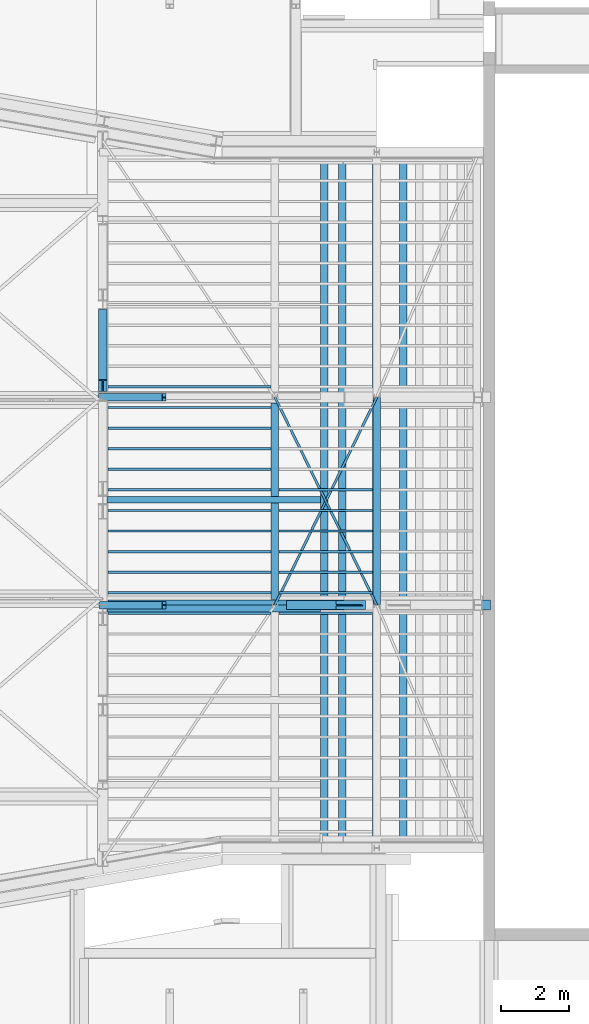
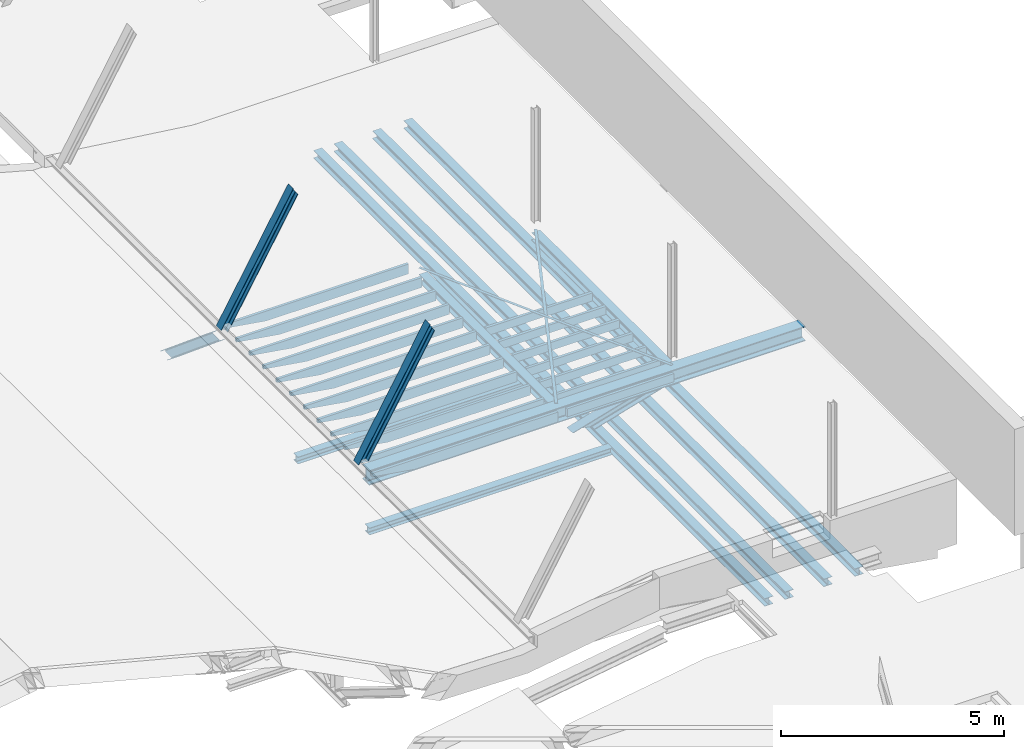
# One storey, part 29 of 50: 34 beams.
"""IFC2X3 building model written with IfcOpenShell, lengths in millimetres."""

from ifc_helpers import new_model, entity, si_unit, converted_unit, derived_unit, direction, frame, frame_2d, origin, place, context, subcontext, project, spatial, polyline, circle_curve, parameter, trimmed, segment, composite_curve, rectangle, i_section, outline, extrude, clip, halfspace, material, type_object, element, save


model = new_model("IFC2X3")

# Units and contexts
model_context = context("Model", 3, precision=0.01, world=origin(), true_north=direction((6.12303176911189e-17, 1.0)))
body_context = subcontext(model_context, "Body", "Model", "MODEL_VIEW")
ifc_project = project(units=[si_unit("LENGTHUNIT", "METRE", prefix="MILLI"), si_unit("AREAUNIT", "SQUARE_METRE", prefix="MILLI"), si_unit("VOLUMEUNIT", "CUBIC_METRE"), converted_unit("PLANEANGLEUNIT", "DEGREE", entity("IfcRatioMeasure", 0.0174532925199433), si_unit("PLANEANGLEUNIT", "RADIAN"), dimensions=[0, 0, 0, 0, 0, 0, 0]), si_unit("MASSUNIT", "GRAM", prefix="KILO"), derived_unit("MASSDENSITYUNIT", [(si_unit("MASSUNIT", "GRAM", prefix="KILO"), 1), (si_unit("LENGTHUNIT", "METRE"), -3)]), derived_unit("MOMENTOFINERTIAUNIT", [(si_unit("LENGTHUNIT", "METRE"), 4)]), si_unit("TIMEUNIT", "SECOND"), si_unit("FREQUENCYUNIT", "HERTZ"), si_unit("THERMODYNAMICTEMPERATUREUNIT", "DEGREE_CELSIUS"), derived_unit("THERMALTRANSMITTANCEUNIT", [(si_unit("MASSUNIT", "GRAM", prefix="KILO"), 1), (si_unit("THERMODYNAMICTEMPERATUREUNIT", "KELVIN"), -1), (si_unit("TIMEUNIT", "SECOND"), -3)]), derived_unit("VOLUMETRICFLOWRATEUNIT", [(si_unit("LENGTHUNIT", "METRE"), 3), (si_unit("TIMEUNIT", "SECOND"), -1)]), si_unit("ELECTRICCURRENTUNIT", "AMPERE"), si_unit("ELECTRICVOLTAGEUNIT", "VOLT"), si_unit("POWERUNIT", "WATT"), si_unit("FORCEUNIT", "NEWTON", prefix="KILO"), si_unit("ILLUMINANCEUNIT", "LUX"), si_unit("LUMINOUSFLUXUNIT", "LUMEN"), si_unit("LUMINOUSINTENSITYUNIT", "CANDELA"), derived_unit("USERDEFINED", [(si_unit("MASSUNIT", "GRAM", prefix="KILO"), -1), (si_unit("LENGTHUNIT", "METRE"), -2), (si_unit("TIMEUNIT", "SECOND"), 3), (si_unit("LUMINOUSFLUXUNIT", "LUMEN"), 1)]), derived_unit("LINEARVELOCITYUNIT", [(si_unit("LENGTHUNIT", "METRE"), 1), (si_unit("TIMEUNIT", "SECOND"), -1)]), si_unit("PRESSUREUNIT", "PASCAL"), derived_unit("USERDEFINED", [(si_unit("LENGTHUNIT", "METRE"), -2), (si_unit("MASSUNIT", "GRAM", prefix="KILO"), 1), (si_unit("TIMEUNIT", "SECOND"), -2)]), derived_unit("LINEARFORCEUNIT", [(si_unit("MASSUNIT", "GRAM", prefix="KILO"), 1), (si_unit("LENGTHUNIT", "METRE"), 1), (si_unit("TIMEUNIT", "SECOND"), -2), (si_unit("LENGTHUNIT", "METRE"), -1)]), derived_unit("PLANARFORCEUNIT", [(si_unit("MASSUNIT", "GRAM", prefix="KILO"), 1), (si_unit("LENGTHUNIT", "METRE"), 1), (si_unit("TIMEUNIT", "SECOND"), -2), (si_unit("LENGTHUNIT", "METRE"), -2)])], contexts=[model_context])

# Site, building, storey
site_placement = place(None, origin())
site = spatial("IfcSite", under=ifc_project, at=site_placement, Name="Theater aan de Parade", CompositionType="ELEMENT")
building_placement = place(site_placement, origin())
building = spatial("IfcBuilding", under=site, at=building_placement, Name="Theater aan de Parade", CompositionType="ELEMENT")
storey_placement = place(building_placement, frame((0.0, 0.0, 15820.0)))
storey = spatial("IfcBuildingStorey", under=building, at=storey_placement, Name="04 vierde verdieping", CompositionType="ELEMENT", Elevation=15820.0)

# Beams
ifc_material_1 = material(Name="00_PBT_MAT_staal_S355")
beam_type_1 = type_object("IfcBeamType", Name="28_PBT_SF_staal_H-profiel:S355_HE220A", PredefinedType="NOTDEFINED")
beam_1_placement = place(storey_placement, frame((56020.0226436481, 35472.499995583, 1501.58279935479), z_axis=(0.866025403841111, 0.0, -0.499999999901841), x_axis=(0.499999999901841, 0.0, 0.866025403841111)))
element("IfcBeam", 1, at=beam_1_placement, inside=storey, type_object=beam_type_1, material=ifc_material_1, Name="28_PBT_SF_staal_H-profiel:S355_HE220A", ObjectType="28_PBT_SF_staal_H-profiel:S355_HE220A", context=body_context, shape_type="Clipping", body=[
    clip(extrude(outline(composite_curve([segment(polyline([(94.0, -110.0), (105.0, -110.0)]), True, "CONTINUOUS"), segment(polyline([(105.0, -110.0), (105.0, 110.0)]), True, "CONTINUOUS"), segment(polyline([(105.0, 110.0), (94.0, 110.0)]), True, "CONTINUOUS"), segment(polyline([(94.0, 110.0), (94.0, 21.4999999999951)]), True, "CONTINUOUS"), segment(trimmed(circle_curve(frame_2d((76.0, 21.4999999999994), x_axis=(1.0, 0.0)), 18.0000000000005), [parameter(270.0)], [parameter(0.0)], True, "PARAMETER"), False, "CONTINUOUS"), segment(polyline([(76.0, 3.4999999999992), (-76.0, 3.4999999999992)]), True, "CONTINUOUS"), segment(trimmed(circle_curve(frame_2d((-76.0, 21.4999999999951), x_axis=(0.0, -1.0)), 17.9999999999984), [parameter(269.999999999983)], [parameter(0.0)], True, "PARAMETER"), False, "CONTINUOUS"), segment(polyline([(-94.0, 21.4999999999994), (-94.0, 110.0)]), True, "CONTINUOUS"), segment(polyline([(-94.0, 110.0), (-105.0, 110.0)]), True, "CONTINUOUS"), segment(polyline([(-105.0, 110.0), (-105.0, -110.0)]), True, "CONTINUOUS"), segment(polyline([(-105.0, -110.0), (-94.0, -110.0)]), True, "CONTINUOUS"), segment(polyline([(-94.0, -110.0), (-94.0, -21.5000000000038)]), True, "CONTINUOUS"), segment(trimmed(circle_curve(frame_2d((-76.0, -21.5000000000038), x_axis=(-1.0, 0.0)), 17.9999999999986), [parameter(269.999999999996)], [parameter(0.0)], True, "PARAMETER"), False, "CONTINUOUS"), segment(polyline([(-76.0, -3.50000000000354), (76.0, -3.50000000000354)]), True, "CONTINUOUS"), segment(trimmed(circle_curve(frame_2d((76.0, -21.4999999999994), x_axis=(0.0, 1.0)), 17.9999999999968), [parameter(269.999999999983)], [parameter(0.0)], True, "PARAMETER"), False, "CONTINUOUS"), segment(polyline([(94.0, -21.5000000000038), (94.0, -110.0)]), True, "CONTINUOUS")], self_intersect=False)), frame((0.0, 0.0, 105.0), z_axis=(1.0, 0.0, 0.0), x_axis=(0.0, 0.0, -1.0)), (0.0, 0.0, 1.0), 3736.88524975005), halfspace(frame((3733.05475086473, 4114.70016806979, 6.82799367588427), z_axis=(0.872134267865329, 0.0, 0.489266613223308), x_axis=(0.489266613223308, 0.0, -0.872134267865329)), False)),
])
beam_2_placement = place(storey_placement, frame((56020.022643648, 29346.916549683, 1501.58279935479), z_axis=(0.866025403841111, 0.0, -0.499999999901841), x_axis=(0.499999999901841, 0.0, 0.866025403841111)))
element("IfcBeam", 2, at=beam_2_placement, inside=storey, type_object=beam_type_1, material=ifc_material_1, Name="28_PBT_SF_staal_H-profiel:S355_HE220A", ObjectType="28_PBT_SF_staal_H-profiel:S355_HE220A", context=body_context, shape_type="Clipping", body=[
    clip(clip(extrude(outline(composite_curve([segment(polyline([(94.0, -110.0), (105.0, -110.0)]), True, "CONTINUOUS"), segment(polyline([(105.0, -110.0), (105.0, 110.0)]), True, "CONTINUOUS"), segment(polyline([(105.0, 110.0), (94.0, 110.0)]), True, "CONTINUOUS"), segment(polyline([(94.0, 110.0), (94.0, 21.4999999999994)]), True, "CONTINUOUS"), segment(trimmed(circle_curve(frame_2d((76.0, 21.5000000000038), x_axis=(1.0, 0.0)), 17.9999999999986), [parameter(270.0)], [parameter(0.0)], True, "PARAMETER"), False, "CONTINUOUS"), segment(polyline([(76.0, 3.50000000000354), (-76.0, 3.50000000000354)]), True, "CONTINUOUS"), segment(trimmed(circle_curve(frame_2d((-76.0, 21.4999999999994), x_axis=(0.0, -1.0)), 17.999999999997), [parameter(269.999999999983)], [parameter(0.0)], True, "PARAMETER"), False, "CONTINUOUS"), segment(polyline([(-94.0, 21.5000000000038), (-94.0, 110.0)]), True, "CONTINUOUS"), segment(polyline([(-94.0, 110.0), (-105.0, 110.0)]), True, "CONTINUOUS"), segment(polyline([(-105.0, 110.0), (-105.0, -110.0)]), True, "CONTINUOUS"), segment(polyline([(-105.0, -110.0), (-94.0, -110.0)]), True, "CONTINUOUS"), segment(polyline([(-94.0, -110.0), (-94.0, -21.4999999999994)]), True, "CONTINUOUS"), segment(trimmed(circle_curve(frame_2d((-76.0, -21.4999999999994), x_axis=(-1.0, 0.0)), 17.9999999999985), [parameter(270.0)], [parameter(0.0)], True, "PARAMETER"), False, "CONTINUOUS"), segment(polyline([(-76.0, -3.4999999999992), (76.0, -3.4999999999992)]), True, "CONTINUOUS"), segment(trimmed(circle_curve(frame_2d((76.0, -21.4999999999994), x_axis=(0.0, 1.0)), 17.9999999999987), [parameter(270.0)], [parameter(0.0)], True, "PARAMETER"), False, "CONTINUOUS"), segment(polyline([(94.0, -21.4999999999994), (94.0, -110.0)]), True, "CONTINUOUS")], self_intersect=False)), frame((38.5868595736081, 0.0, 105.0), z_axis=(1.0, 0.0, 0.0), x_axis=(0.0, 0.0, -1.0)), (0.0, 0.0, 1.0), 3698.29839017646), halfspace(frame((175.616197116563, 7825.68699590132, 237.341774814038), z_axis=(-0.866025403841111, 0.0, 0.499999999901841), x_axis=(0.0, -1.0, 0.0)), False)), halfspace(frame((3733.05475086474, -2010.88327783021, 6.8279936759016), z_axis=(0.872134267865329, 0.0, 0.489266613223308), x_axis=(0.489266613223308, 0.0, -0.872134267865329)), False)),
])
beam_3_placement = place(storey_placement, frame((64216.05603639, 29346.916549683, 0.0), z_axis=(0.0, 0.0, 1.0), x_axis=(0.0, 1.0, 0.0)))
element("IfcBeam", 3, at=beam_3_placement, inside=storey, type_object=beam_type_1, material=ifc_material_1, Name="28_PBT_SF_staal_H-profiel:S355_HE220A", ObjectType="28_PBT_SF_staal_H-profiel:S355_HE220A", context=body_context, shape_type="SweptSolid", body=[
    extrude(i_section(OverallWidth=220.000000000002, OverallDepth=210.0, WebThickness=6.99999999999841, FlangeThickness=10.9999999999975, FilletRadius=17.9999999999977, at=frame_2d((-4.32720526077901e-12, 8.66862137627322e-12), x_axis=(0.0, 1.0))), frame((12.7000006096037, 0.0, 1195.0), z_axis=(1.0, 0.0, 0.0), x_axis=(0.0, 0.0, -1.0)), (0.0, 0.0, 1.0), 6100.1834446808),
])
beam_4_placement = place(storey_placement, frame((61216.05603639, 29346.916549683, 0.0), z_axis=(0.0, 0.0, 1.0), x_axis=(0.0, 1.0, 0.0)))
element("IfcBeam", 4, at=beam_4_placement, inside=storey, type_object=beam_type_1, material=ifc_material_1, Name="28_PBT_SF_staal_H-profiel:S355_HE220A", ObjectType="28_PBT_SF_staal_H-profiel:S355_HE220A", context=body_context, shape_type="SweptSolid", body=[
    extrude(i_section(OverallWidth=220.000000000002, OverallDepth=210.0, WebThickness=6.99999999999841, FlangeThickness=10.9999999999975, FilletRadius=17.9999999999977, at=frame_2d((-4.32720526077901e-12, 8.66862137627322e-12), x_axis=(0.0, 1.0))), frame((162.700000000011, 0.0, 1195.0), z_axis=(1.0, 0.0, 0.0), x_axis=(0.0, 0.0, -1.0)), (0.0, 0.0, 1.0), 5800.18344589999),
])
beam_5_placement = place(storey_placement, frame((64196.8570769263, 42550.0, 0.0), z_axis=(0.0, 0.0, 1.0), x_axis=(0.0, -1.0, 0.0)))
element("IfcBeam", 5, at=beam_5_placement, inside=storey, type_object=beam_type_1, material=ifc_material_1, Name="28_PBT_SF_staal_H-profiel:S355_HE220A", ObjectType="28_PBT_SF_staal_H-profiel:S355_HE220A", context=body_context, shape_type="SweptSolid", body=[
    extrude(i_section(OverallWidth=220.000000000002, OverallDepth=210.0, WebThickness=6.99999999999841, FlangeThickness=10.9999999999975, FilletRadius=17.9999999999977, at=frame_2d((-2.16715534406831e-12, 0.0), x_axis=(0.0, 1.0))), frame((0.0, 0.0, -320.0), z_axis=(1.0, 0.0, 0.0), x_axis=(0.0, 0.0, -1.0)), (0.0, 0.0, 1.0), 20209.9999999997),
])
beam_6_placement = place(storey_placement, frame((65000.8570769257, 42550.0, 0.0), z_axis=(0.0, 0.0, 1.0), x_axis=(0.0, -1.0, 0.0)))
element("IfcBeam", 6, at=beam_6_placement, inside=storey, type_object=beam_type_1, material=ifc_material_1, Name="28_PBT_SF_staal_H-profiel:S355_HE220A", ObjectType="28_PBT_SF_staal_H-profiel:S355_HE220A", context=body_context, shape_type="SweptSolid", body=[
    extrude(i_section(OverallWidth=220.000000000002, OverallDepth=210.0, WebThickness=6.99999999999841, FlangeThickness=10.9999999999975, FilletRadius=17.9999999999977, at=frame_2d((-2.16715534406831e-12, 8.66862137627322e-12), x_axis=(0.0, 1.0))), frame((0.0, 0.0, -320.0), z_axis=(1.0, 0.0, 0.0), x_axis=(0.0, 0.0, -1.0)), (0.0, 0.0, 1.0), 20209.9999999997),
])
beam_7_placement = place(storey_placement, frame((63196.8570769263, 42550.0, 0.0), z_axis=(0.0, 0.0, 1.0), x_axis=(0.0, -1.0, 0.0)))
element("IfcBeam", 7, at=beam_7_placement, inside=storey, type_object=beam_type_1, material=ifc_material_1, Name="28_PBT_SF_staal_H-profiel:S355_HE220A", ObjectType="28_PBT_SF_staal_H-profiel:S355_HE220A", context=body_context, shape_type="SweptSolid", body=[
    extrude(i_section(OverallWidth=220.000000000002, OverallDepth=210.0, WebThickness=6.99999999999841, FlangeThickness=10.9999999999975, FilletRadius=17.9999999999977, at=frame_2d((-2.16715534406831e-12, 0.0), x_axis=(0.0, 1.0))), frame((0.0, 0.0, -320.0), z_axis=(1.0, 0.0, 0.0), x_axis=(0.0, 0.0, -1.0)), (0.0, 0.0, 1.0), 20209.9999999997),
])
beam_8_placement = place(storey_placement, frame((62670.0, 42550.0, 0.0), z_axis=(0.0, 0.0, 1.0), x_axis=(0.0, -1.0, 0.0)))
element("IfcBeam", 8, at=beam_8_placement, inside=storey, type_object=beam_type_1, material=ifc_material_1, Name="28_PBT_SF_staal_H-profiel:S355_HE220A", ObjectType="28_PBT_SF_staal_H-profiel:S355_HE220A", context=body_context, shape_type="SweptSolid", body=[
    extrude(i_section(OverallWidth=220.000000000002, OverallDepth=210.0, WebThickness=6.99999999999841, FlangeThickness=10.9999999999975, FilletRadius=17.9999999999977, at=frame_2d((-2.16715534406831e-12, -8.66862137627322e-12), x_axis=(0.0, 1.0))), frame((0.0, 0.0, -320.0), z_axis=(1.0, 0.0, 0.0), x_axis=(0.0, 0.0, -1.0)), (0.0, 0.0, 1.0), 20209.9999999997),
])
beam_type_2 = type_object("IfcBeamType", Name="28_PBT_SF_staal_H-profiel:S355_HE200A", PredefinedType="NOTDEFINED")
beam_9_placement = place(storey_placement, frame((62560.0, 32450.0, 0.0), z_axis=(0.0, 0.0, 1.0), x_axis=(-1.0, 0.0, 0.0)))
element("IfcBeam", 9, at=beam_9_placement, inside=storey, type_object=beam_type_2, material=ifc_material_1, Name="28_PBT_SF_staal_H-profiel:S355_HE200A", ObjectType="28_PBT_SF_staal_H-profiel:S355_HE200A", context=body_context, shape_type="SweptSolid", body=[
    extrude(i_section(OverallWidth=199.999999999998, OverallDepth=190.0, WebThickness=6.50000000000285, FlangeThickness=9.99999999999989, FilletRadius=18.0000000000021, at=frame_2d((0.0, -6.50146603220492e-12), x_axis=(0.0, 1.0))), frame((0.0, 0.0, -310.0), z_axis=(1.0, 0.0, 0.0), x_axis=(0.0, 0.0, -1.0)), (0.0, 0.0, 1.0), 6286.62525142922),
])
beam_10_placement = place(storey_placement, frame((62560.0, 29250.0, 0.0), z_axis=(0.0, 0.0, 1.0), x_axis=(-1.0, 0.0, 0.0)))
element("IfcBeam", 10, at=beam_10_placement, inside=storey, type_object=beam_type_2, material=ifc_material_1, Name="28_PBT_SF_staal_H-profiel:S355_HE200A", ObjectType="28_PBT_SF_staal_H-profiel:S355_HE200A", context=body_context, shape_type="SweptSolid", body=[
    extrude(i_section(OverallWidth=199.999999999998, OverallDepth=190.0, WebThickness=6.50000000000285, FlangeThickness=9.99999999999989, FilletRadius=18.0000000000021, at=frame_2d((0.0, 2.16715534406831e-12), x_axis=(0.0, 1.0))), frame((0.0, 0.0, -310.0), z_axis=(1.0, 0.0, 0.0), x_axis=(0.0, 0.0, -1.0)), (0.0, 0.0, 1.0), 6286.62525142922),
])
beam_type_3 = type_object("IfcBeamType", Name="28_PBT_SF_staal_H-profiel:S355_HE260B", PredefinedType="NOTDEFINED")
beam_11_placement = place(storey_placement, frame((61504.0629760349, 29346.916549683, 339.745546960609), z_axis=(-0.280842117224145, 0.0, 0.959753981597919), x_axis=(0.959753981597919, 0.0, 0.280842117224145)))
element("IfcBeam", 11, at=beam_11_placement, inside=storey, type_object=beam_type_3, material=ifc_material_1, Name="28_PBT_SF_staal_H-profiel:S355_HE260B", ObjectType="28_PBT_SF_staal_H-profiel:S355_HE260B", context=body_context, shape_type="Clipping", body=[
    clip(clip(extrude(i_section(OverallWidth=260.000000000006, OverallDepth=260.000000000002, WebThickness=10.0000000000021, FlangeThickness=17.4999999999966, FilletRadius=23.9999999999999, at=frame_2d((-3.11217718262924e-12, 6.49436060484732e-12), x_axis=(0.0, 1.0))), frame((99.8063754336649, 0.0, 0.0), z_axis=(1.0, 0.0, 0.0), x_axis=(0.0, 0.0, -1.0)), (0.0, 0.0, 1.0), 2339.36648588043), halfspace(frame((-4713.81573917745, -170.0, 2406.46514513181), z_axis=(-0.427523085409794, 0.0, -0.90400443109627), x_axis=(0.90400443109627, 0.0, -0.427523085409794)), False)), halfspace(frame((-4862.83080603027, 170.0, 2006.70399835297), z_axis=(0.280842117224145, 0.0, 0.959753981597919), x_axis=(0.959753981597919, 0.0, -0.280842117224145)), False)),
])
beam_12_placement = place(storey_placement, frame((56143.3747485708, 35500.0, 1290.0), z_axis=(0.0, 0.640184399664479, 0.768221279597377), x_axis=(0.0, 0.768221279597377, -0.640184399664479)))
element("IfcBeam", 12, at=beam_12_placement, inside=storey, type_object=beam_type_3, material=ifc_material_1, Name="28_PBT_SF_staal_H-profiel:S355_HE260B", ObjectType="28_PBT_SF_staal_H-profiel:S355_HE260B", context=body_context, shape_type="Clipping", body=[
    clip(clip(clip(clip(extrude(outline(composite_curve([segment(polyline([(112.499999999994, -130.0), (130.0, -130.0)]), True, "CONTINUOUS"), segment(polyline([(130.0, -130.0), (130.0, 130.0)]), True, "CONTINUOUS"), segment(polyline([(130.0, 130.0), (112.499999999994, 130.0)]), True, "CONTINUOUS"), segment(polyline([(112.499999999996, 130.0), (112.499999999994, 29.0)]), True, "CONTINUOUS"), segment(trimmed(circle_curve(frame_2d((88.4999999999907, 29.0), x_axis=(1.0, 0.0)), 24.0000000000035), [parameter(270.000000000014)], [parameter(0.0)], True, "PARAMETER"), False, "CONTINUOUS"), segment(polyline([(88.4999999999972, 5.0), (-88.5000000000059, 5.0)]), True, "CONTINUOUS"), segment(trimmed(circle_curve(frame_2d((-88.4999999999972, 29.0), x_axis=(0.0, -1.0)), 24.0000000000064), [parameter(270.000000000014)], [parameter(0.0)], True, "PARAMETER"), False, "CONTINUOUS"), segment(polyline([(-112.500000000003, 29.0), (-112.500000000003, 130.0)]), True, "CONTINUOUS"), segment(polyline([(-112.500000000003, 130.0), (-130.0, 130.0)]), True, "CONTINUOUS"), segment(polyline([(-130.0, 130.0), (-130.0, -130.0)]), True, "CONTINUOUS"), segment(polyline([(-130.0, -130.0), (-112.500000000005, -130.0)]), True, "CONTINUOUS"), segment(polyline([(-112.500000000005, -130.0), (-112.500000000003, -29.0)]), True, "CONTINUOUS"), segment(trimmed(circle_curve(frame_2d((-88.4999999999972, -29.0), x_axis=(-1.0, 0.0)), 24.0000000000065), [parameter(270.000000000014)], [parameter(0.0)], True, "PARAMETER"), False, "CONTINUOUS"), segment(polyline([(-88.5000000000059, -5.0), (88.4999999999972, -5.0)]), True, "CONTINUOUS"), segment(trimmed(circle_curve(frame_2d((88.4999999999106, -29.0), x_axis=(0.0, 1.0)), 24.0000000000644), [parameter(270.000000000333)], [parameter(0.0)], True, "PARAMETER"), False, "CONTINUOUS"), segment(polyline([(112.499999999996, -29.0), (112.499999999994, -130.0)]), True, "CONTINUOUS")], self_intersect=False)), frame((268.237263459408, 0.0, 0.0), z_axis=(1.0, 0.0, 0.0), x_axis=(0.0, 0.0, -1.0)), (0.0, 0.0, 1.0), 2994.14243723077), halfspace(frame((-7554.21975389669, -170.0, -8937.6509352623), z_axis=(0.640184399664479, 0.0, -0.768221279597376), x_axis=(0.768221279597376, 0.0, 0.640184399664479)), False)), halfspace(frame((1428.44345097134, 150.0, -1487.63490056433), z_axis=(-0.768221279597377, 0.0, -0.640184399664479), x_axis=(-0.640184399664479, 0.0, 0.768221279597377)), False)), halfspace(frame((3279.85673480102, -150.0, 55.2095026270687), z_axis=(0.768221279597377, 0.0, 0.640184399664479), x_axis=(-0.640184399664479, 0.0, 0.768221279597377)), False)), halfspace(frame((-10581.9437414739, 170.0, -9137.20497966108), z_axis=(-0.640184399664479, 0.0, 0.768221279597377), x_axis=(0.768221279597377, 0.0, 0.640184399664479)), False)),
])
beam_type_4 = type_object("IfcBeamType", Name="28_PBT_SF_staal_H-profiel:S355_HE400B", PredefinedType="NOTDEFINED")
beam_13_placement = place(storey_placement, frame((56293.3747485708, 29346.916549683, 0.0)))
element("IfcBeam", 13, at=beam_13_placement, inside=storey, type_object=beam_type_4, material=ifc_material_1, Name="28_PBT_SF_staal_H-profiel:S355_HE400B", ObjectType="28_PBT_SF_staal_H-profiel:S355_HE400B", context=body_context, shape_type="SweptSolid", body=[
    extrude(i_section(OverallWidth=300.000000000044, OverallDepth=400.0, WebThickness=13.4999999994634, FlangeThickness=23.9999999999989, FilletRadius=26.9999999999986, at=frame_2d((0.0, 6.49436060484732e-12), x_axis=(0.0, 1.0))), frame((0.0, 0.0, 1120.0), z_axis=(1.0, 0.0, 0.0), x_axis=(0.0, 0.0, -1.0)), (0.0, 0.0, 1.0), 11276.6252514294),
])
ifc_material_2 = material(Name="00_PBT_MAT_hout")
beam_type_5 = type_object("IfcBeamType", Name="28_PBT_SF_rechthoekig hout:70x270", PredefinedType="NOTDEFINED")
beam_14_placement = place(storey_placement, frame((61216.0560363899, 29102.0, 0.0), z_axis=(0.0, 0.0, 1.0), x_axis=(-1.0, 0.0, 0.0)))
element("IfcBeam", 14, at=beam_14_placement, inside=storey, type_object=beam_type_5, material=ifc_material_2, Name="28_PBT_SF_rechthoekig hout:70x270", ObjectType="28_PBT_SF_rechthoekig hout:70x270", context=body_context, shape_type="Clipping", body=[
    clip(extrude(rectangle(XDim=270.000000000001, YDim=70.0000000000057, at=frame_2d((2.16715534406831e-12, 0.0), x_axis=(0.0, 1.0))), frame((122.699999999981, 0.0, 1187.0), z_axis=(1.0, 0.0, 0.0), x_axis=(0.0, 1.0, 0.0)), (0.0, 0.0, 1.0), 4799.9812878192), halfspace(frame((2971.92563283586, 4922.68128781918, 920.0), z_axis=(0.156434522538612, 0.0, -0.987688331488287), x_axis=(0.0, -1.0, 0.0)), False)),
])
beam_15_placement = place(storey_placement, frame((61216.0560363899, 29709.0, 0.0), z_axis=(0.0, 0.0, 1.0), x_axis=(-1.0, 0.0, 0.0)))
element("IfcBeam", 15, at=beam_15_placement, inside=storey, type_object=beam_type_5, material=ifc_material_2, Name="28_PBT_SF_rechthoekig hout:70x270", ObjectType="28_PBT_SF_rechthoekig hout:70x270", context=body_context, shape_type="Clipping", body=[
    clip(extrude(rectangle(XDim=270.000000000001, YDim=70.0000000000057, at=frame_2d((-2.16715534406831e-12, 0.0), x_axis=(0.0, 1.0))), frame((122.699999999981, 0.0, 1187.0), z_axis=(1.0, 0.0, 0.0), x_axis=(0.0, 1.0, 0.0)), (0.0, 0.0, 1.0), 4799.9812878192), halfspace(frame((2971.92563283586, 4922.68128781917, 920.0), z_axis=(0.156434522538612, 0.0, -0.987688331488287), x_axis=(0.0, -1.0, 0.0)), False)),
])
beam_16_placement = place(storey_placement, frame((61216.0560363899, 30316.0, 0.0), z_axis=(0.0, 0.0, 1.0), x_axis=(-1.0, 0.0, 0.0)))
element("IfcBeam", 16, at=beam_16_placement, inside=storey, type_object=beam_type_5, material=ifc_material_2, Name="28_PBT_SF_rechthoekig hout:70x270", ObjectType="28_PBT_SF_rechthoekig hout:70x270", context=body_context, shape_type="Clipping", body=[
    clip(extrude(rectangle(XDim=270.000000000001, YDim=70.0000000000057, at=frame_2d((-2.16715534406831e-12, 0.0), x_axis=(0.0, 1.0))), frame((122.699999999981, 0.0, 1187.0), z_axis=(1.0, 0.0, 0.0), x_axis=(0.0, 1.0, 0.0)), (0.0, 0.0, 1.0), 4799.9812878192), halfspace(frame((2971.92563283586, 4922.68128781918, 920.0), z_axis=(0.156434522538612, 0.0, -0.987688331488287), x_axis=(0.0, -1.0, 0.0)), False)),
])
beam_17_placement = place(storey_placement, frame((61216.0560363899, 30923.0, 0.0), z_axis=(0.0, 0.0, 1.0), x_axis=(-1.0, 0.0, 0.0)))
element("IfcBeam", 17, at=beam_17_placement, inside=storey, type_object=beam_type_5, material=ifc_material_2, Name="28_PBT_SF_rechthoekig hout:70x270", ObjectType="28_PBT_SF_rechthoekig hout:70x270", context=body_context, shape_type="Clipping", body=[
    clip(extrude(rectangle(XDim=270.000000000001, YDim=70.0000000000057, at=frame_2d((2.16715534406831e-12, 0.0), x_axis=(0.0, 1.0))), frame((122.699999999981, 0.0, 1187.0), z_axis=(1.0, 0.0, 0.0), x_axis=(0.0, 1.0, 0.0)), (0.0, 0.0, 1.0), 4799.9812878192), halfspace(frame((2971.92563283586, 4922.68128781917, 920.0), z_axis=(0.156434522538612, 0.0, -0.987688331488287), x_axis=(0.0, -1.0, 0.0)), False)),
])
beam_18_placement = place(storey_placement, frame((61216.0560363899, 31530.0, 0.0), z_axis=(0.0, 0.0, 1.0), x_axis=(-1.0, 0.0, 0.0)))
element("IfcBeam", 18, at=beam_18_placement, inside=storey, type_object=beam_type_5, material=ifc_material_2, Name="28_PBT_SF_rechthoekig hout:70x270", ObjectType="28_PBT_SF_rechthoekig hout:70x270", context=body_context, shape_type="Clipping", body=[
    clip(extrude(rectangle(XDim=270.000000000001, YDim=70.0000000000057, at=frame_2d((2.16715534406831e-12, 0.0), x_axis=(0.0, 1.0))), frame((122.699999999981, 0.0, 1187.0), z_axis=(1.0, 0.0, 0.0), x_axis=(0.0, 1.0, 0.0)), (0.0, 0.0, 1.0), 4799.9812878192), halfspace(frame((2971.92563283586, 4922.68128781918, 920.0), z_axis=(0.156434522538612, 0.0, -0.987688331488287), x_axis=(0.0, -1.0, 0.0)), False)),
])
beam_19_placement = place(storey_placement, frame((61216.0560363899, 32137.0, 0.0), z_axis=(0.0, 0.0, 1.0), x_axis=(-1.0, 0.0, 0.0)))
element("IfcBeam", 19, at=beam_19_placement, inside=storey, type_object=beam_type_5, material=ifc_material_2, Name="28_PBT_SF_rechthoekig hout:70x270", ObjectType="28_PBT_SF_rechthoekig hout:70x270", context=body_context, shape_type="Clipping", body=[
    clip(extrude(rectangle(XDim=270.000000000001, YDim=70.0000000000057, at=frame_2d((-2.16715534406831e-12, 0.0), x_axis=(0.0, 1.0))), frame((122.699999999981, 0.0, 1187.0), z_axis=(1.0, 0.0, 0.0), x_axis=(0.0, 1.0, 0.0)), (0.0, 0.0, 1.0), 4799.9812878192), halfspace(frame((2971.92563283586, 4922.68128781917, 920.0), z_axis=(0.156434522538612, 0.0, -0.987688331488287), x_axis=(0.0, -1.0, 0.0)), False)),
])
beam_20_placement = place(storey_placement, frame((61216.0560363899, 32744.0, 0.0), z_axis=(0.0, 0.0, 1.0), x_axis=(-1.0, 0.0, 0.0)))
element("IfcBeam", 20, at=beam_20_placement, inside=storey, type_object=beam_type_5, material=ifc_material_2, Name="28_PBT_SF_rechthoekig hout:70x270", ObjectType="28_PBT_SF_rechthoekig hout:70x270", context=body_context, shape_type="Clipping", body=[
    clip(extrude(rectangle(XDim=270.000000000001, YDim=70.0000000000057, at=frame_2d((-2.16715534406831e-12, 0.0), x_axis=(0.0, 1.0))), frame((122.699999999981, 0.0, 1187.0), z_axis=(1.0, 0.0, 0.0), x_axis=(0.0, 1.0, 0.0)), (0.0, 0.0, 1.0), 4799.9812878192), halfspace(frame((2971.92563283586, 4922.68128781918, 920.0), z_axis=(0.156434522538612, 0.0, -0.987688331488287), x_axis=(0.0, -1.0, 0.0)), False)),
])
beam_21_placement = place(storey_placement, frame((61216.0560363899, 33351.0, 0.0), z_axis=(0.0, 0.0, 1.0), x_axis=(-1.0, 0.0, 0.0)))
element("IfcBeam", 21, at=beam_21_placement, inside=storey, type_object=beam_type_5, material=ifc_material_2, Name="28_PBT_SF_rechthoekig hout:70x270", ObjectType="28_PBT_SF_rechthoekig hout:70x270", context=body_context, shape_type="Clipping", body=[
    clip(extrude(rectangle(XDim=270.000000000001, YDim=70.0000000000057, at=frame_2d((-2.16715534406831e-12, 0.0), x_axis=(0.0, 1.0))), frame((122.699999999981, 0.0, 1187.0), z_axis=(1.0, 0.0, 0.0), x_axis=(0.0, 1.0, 0.0)), (0.0, 0.0, 1.0), 4799.9812878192), halfspace(frame((2971.92563283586, 4922.68128781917, 920.0), z_axis=(0.156434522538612, 0.0, -0.987688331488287), x_axis=(0.0, -1.0, 0.0)), False)),
])
beam_22_placement = place(storey_placement, frame((61216.0560363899, 33958.0, 0.0), z_axis=(0.0, 0.0, 1.0), x_axis=(-1.0, 0.0, 0.0)))
element("IfcBeam", 22, at=beam_22_placement, inside=storey, type_object=beam_type_5, material=ifc_material_2, Name="28_PBT_SF_rechthoekig hout:70x270", ObjectType="28_PBT_SF_rechthoekig hout:70x270", context=body_context, shape_type="Clipping", body=[
    clip(extrude(rectangle(XDim=270.000000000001, YDim=70.0000000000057, at=frame_2d((2.16715534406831e-12, 0.0), x_axis=(0.0, 1.0))), frame((122.699999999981, 0.0, 1187.0), z_axis=(1.0, 0.0, 0.0), x_axis=(0.0, 1.0, 0.0)), (0.0, 0.0, 1.0), 4799.9812878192), halfspace(frame((2971.92563283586, 4922.68128781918, 920.0), z_axis=(0.156434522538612, 0.0, -0.987688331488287), x_axis=(0.0, -1.0, 0.0)), False)),
])
beam_23_placement = place(storey_placement, frame((61216.0560363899, 34565.0, 0.0), z_axis=(0.0, 0.0, 1.0), x_axis=(-1.0, 0.0, 0.0)))
element("IfcBeam", 23, at=beam_23_placement, inside=storey, type_object=beam_type_5, material=ifc_material_2, Name="28_PBT_SF_rechthoekig hout:70x270", ObjectType="28_PBT_SF_rechthoekig hout:70x270", context=body_context, shape_type="Clipping", body=[
    clip(extrude(rectangle(XDim=270.000000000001, YDim=70.0000000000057, at=frame_2d((-2.16715534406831e-12, 0.0), x_axis=(0.0, 1.0))), frame((122.699999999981, 0.0, 1187.0), z_axis=(1.0, 0.0, 0.0), x_axis=(0.0, 1.0, 0.0)), (0.0, 0.0, 1.0), 4799.9812878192), halfspace(frame((2971.92563283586, 4922.68128781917, 920.0), z_axis=(0.156434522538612, 0.0, -0.987688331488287), x_axis=(0.0, -1.0, 0.0)), False)),
])
beam_24_placement = place(storey_placement, frame((61216.0560363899, 35172.0, 0.0), z_axis=(0.0, 0.0, 1.0), x_axis=(-1.0, 0.0, 0.0)))
element("IfcBeam", 24, at=beam_24_placement, inside=storey, type_object=beam_type_5, material=ifc_material_2, Name="28_PBT_SF_rechthoekig hout:70x270", ObjectType="28_PBT_SF_rechthoekig hout:70x270", context=body_context, shape_type="Clipping", body=[
    clip(extrude(rectangle(XDim=270.000000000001, YDim=70.0000000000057, at=frame_2d((-2.16715534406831e-12, 0.0), x_axis=(0.0, 1.0))), frame((122.699999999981, 0.0, 1187.0), z_axis=(1.0, 0.0, 0.0), x_axis=(0.0, 1.0, 0.0)), (0.0, 0.0, 1.0), 4799.9812878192), halfspace(frame((2971.92563283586, 4922.68128781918, 920.0), z_axis=(0.156434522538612, 0.0, -0.987688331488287), x_axis=(0.0, -1.0, 0.0)), False)),
])
beam_25_placement = place(storey_placement, frame((61216.0560363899, 35779.0, 0.0), z_axis=(0.0, 0.0, 1.0), x_axis=(-1.0, 0.0, 0.0)))
element("IfcBeam", 25, at=beam_25_placement, inside=storey, type_object=beam_type_5, material=ifc_material_2, Name="28_PBT_SF_rechthoekig hout:70x270", ObjectType="28_PBT_SF_rechthoekig hout:70x270", context=body_context, shape_type="Clipping", body=[
    clip(extrude(rectangle(XDim=270.000000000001, YDim=70.0000000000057, at=frame_2d((2.16715534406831e-12, 0.0), x_axis=(0.0, 1.0))), frame((122.699999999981, 0.0, 1187.0), z_axis=(1.0, 0.0, 0.0), x_axis=(0.0, 1.0, 0.0)), (0.0, 0.0, 1.0), 4799.9812878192), halfspace(frame((2971.92563283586, 4922.68128781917, 920.0), z_axis=(0.156434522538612, 0.0, -0.987688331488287), x_axis=(0.0, -1.0, 0.0)), False)),
])
beam_type_6 = type_object("IfcBeamType", Name="28_PBT_SF_rechthoekig hout:70x220", PredefinedType="NOTDEFINED")
beam_26_placement = place(storey_placement, frame((61216.05603639, 29102.0, 0.0)))
element("IfcBeam", 26, at=beam_26_placement, inside=storey, type_object=beam_type_6, material=ifc_material_2, Name="28_PBT_SF_rechthoekig hout:70x220", ObjectType="28_PBT_SF_rechthoekig hout:70x220", context=body_context, shape_type="SweptSolid", body=[
    extrude(rectangle(XDim=220.0, YDim=70.0000000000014, at=frame_2d((1.08002495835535e-12, -2.16360263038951e-12), x_axis=(1.0, 0.0))), frame((122.699999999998, 0.0, 1212.0), z_axis=(1.0, 0.0, 0.0), x_axis=(0.0, 0.0, -1.0)), (0.0, 0.0, 1.0), 2754.59999999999),
])
beam_27_placement = place(storey_placement, frame((61216.05603639, 29709.0, 0.0)))
element("IfcBeam", 27, at=beam_27_placement, inside=storey, type_object=beam_type_6, material=ifc_material_2, Name="28_PBT_SF_rechthoekig hout:70x220", ObjectType="28_PBT_SF_rechthoekig hout:70x220", context=body_context, shape_type="SweptSolid", body=[
    extrude(rectangle(XDim=220.0, YDim=70.0000000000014, at=frame_2d((1.08002495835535e-12, 2.16360263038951e-12), x_axis=(1.0, 0.0))), frame((122.699999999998, 0.0, 1212.0), z_axis=(1.0, 0.0, 0.0), x_axis=(0.0, 0.0, -1.0)), (0.0, 0.0, 1.0), 2754.59999999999),
])
for number, where, name in (
    (28, (61216.05603639, 30316.0, 0.0), "28_PBT_SF_rechthoekig hout:70x220"),
    (29, (61216.05603639, 30923.0, 0.0), "28_PBT_SF_rechthoekig hout:70x220"),
    (30, (61216.05603639, 31530.0, 0.0), "28_PBT_SF_rechthoekig hout:70x220"),
):
    element("IfcBeam", number, at=place(storey_placement, frame(where)), inside=storey, type_object=beam_type_6, material=ifc_material_2, Name=name, ObjectType="28_PBT_SF_rechthoekig hout:70x220", context=body_context, shape_type="SweptSolid", body=[
        extrude(rectangle(XDim=220.0, YDim=70.0000000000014, at=frame_2d((1.08002495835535e-12, -2.16360263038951e-12), x_axis=(1.0, 0.0))), frame((122.699999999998, 0.0, 1212.0), z_axis=(1.0, 0.0, 0.0), x_axis=(0.0, 0.0, -1.0)), (0.0, 0.0, 1.0), 2754.59999999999),
    ])
for number, where, name in (
    (31, (61216.05603639, 32137.0, 0.0), "28_PBT_SF_rechthoekig hout:70x220"),
    (32, (61216.05603639, 32744.0, 0.0), "28_PBT_SF_rechthoekig hout:70x220"),
):
    element("IfcBeam", number, at=place(storey_placement, frame(where)), inside=storey, type_object=beam_type_6, material=ifc_material_2, Name=name, ObjectType="28_PBT_SF_rechthoekig hout:70x220", context=body_context, shape_type="SweptSolid", body=[
        extrude(rectangle(XDim=220.0, YDim=70.0000000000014, at=frame_2d((1.08002495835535e-12, 2.16360263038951e-12), x_axis=(1.0, 0.0))), frame((122.699999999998, 0.0, 1212.0), z_axis=(1.0, 0.0, 0.0), x_axis=(0.0, 0.0, -1.0)), (0.0, 0.0, 1.0), 2754.59999999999),
    ])
ifc_material_3 = material(Name="00_PBT_MAT_staal")
beam_type_7 = type_object("IfcBeamType", Name="28_PBT_SF_staal_strip:strip 70x7", PredefinedType="NOTDEFINED")
beam_28_placement = place(storey_placement, frame((61216.05603639, 29349.916549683, 0.0), z_axis=(0.0, 0.0, 1.0), x_axis=(0.440181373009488, 0.897908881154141, 0.0)))
element("IfcBeam", 33, at=beam_28_placement, inside=storey, type_object=beam_type_7, material=ifc_material_3, Name="28_PBT_SF_staal_strip:strip 70x7", ObjectType="28_PBT_SF_staal_strip:strip 70x7", context=body_context, shape_type="SweptSolid", body=[
    extrude(rectangle(XDim=6.99999999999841, YDim=70.0000000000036, at=frame_2d((1.08291153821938e-12, 0.0), x_axis=(1.0, 0.0))), frame((0.0, 0.0, 1349.5), z_axis=(1.0, 0.0, 0.0), x_axis=(0.0, 0.0, -1.0)), (0.0, 0.0, 1.0), 6815.37244406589),
])
beam_29_placement = place(storey_placement, frame((61216.05603639, 35472.499995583, 0.0), z_axis=(0.0, 0.0, 1.0), x_axis=(0.440007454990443, -0.897994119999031, 0.0)))
element("IfcBeam", 34, at=beam_29_placement, inside=storey, type_object=beam_type_7, material=ifc_material_3, Name="28_PBT_SF_staal_strip:strip 70x7", ObjectType="28_PBT_SF_staal_strip:strip 70x7", context=body_context, shape_type="SweptSolid", body=[
    extrude(rectangle(XDim=7.00000000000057, YDim=69.9999999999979, at=frame_2d((1.08291153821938e-12, -4.83879603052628e-12), x_axis=(1.0, 0.0))), frame((0.0, 0.0, 1349.5), z_axis=(1.0, 0.0, 0.0), x_axis=(0.0, 0.0, -1.0)), (0.0, 0.0, 1.0), 6818.06629859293),
])

save(model, "model.ifc")
